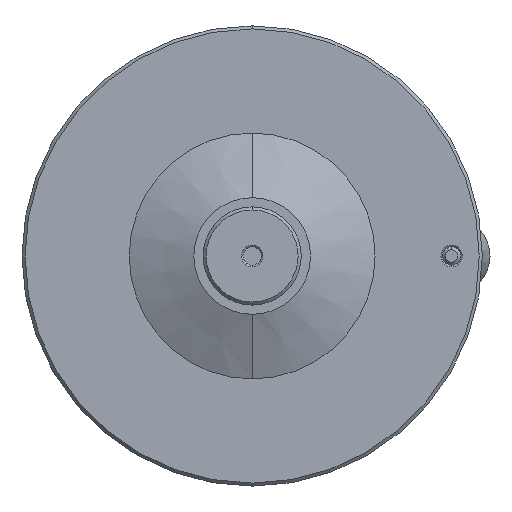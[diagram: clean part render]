
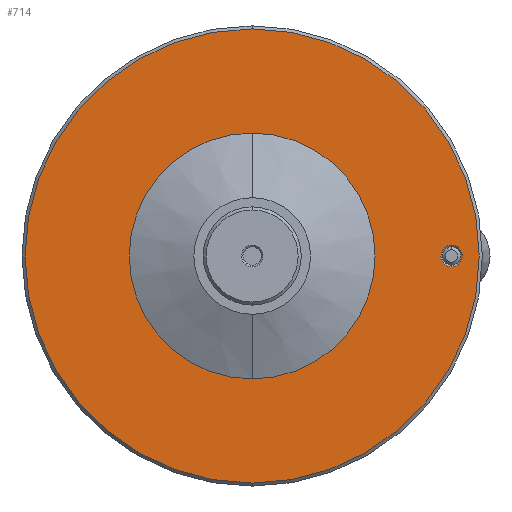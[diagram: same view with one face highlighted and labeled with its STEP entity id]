
A CAD part, front view. The second image highlights one B-rep face of the part: STEP entity #714.
In plain terms, the highlighted planar face has unit normal (0, -1, 0).
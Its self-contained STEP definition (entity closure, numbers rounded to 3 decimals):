
#70 = EDGE_CURVE ( 'NONE', #1377, #421, #1651, .T. ) ;
#91 = CARTESIAN_POINT ( 'NONE',  ( 0., -8., 0. ) ) ;
#115 = CIRCLE ( 'NONE', #228, 40.049 ) ;
#117 = AXIS2_PLACEMENT_3D ( 'NONE', #1178, #903, #175 ) ;
#122 = ORIENTED_EDGE ( 'NONE', *, *, #698, .T. ) ;
#149 = DIRECTION ( 'NONE',  ( 0., 0., -1. ) ) ;
#175 = DIRECTION ( 'NONE',  ( 0., 0., -1. ) ) ;
#180 = FACE_BOUND ( 'NONE', #1406, .T. ) ;
#203 = FACE_BOUND ( 'NONE', #1808, .T. ) ;
#228 = AXIS2_PLACEMENT_3D ( 'NONE', #91, #1099, #254 ) ;
#254 = DIRECTION ( 'NONE',  ( 0., 0., 1. ) ) ;
#286 = CIRCLE ( 'NONE', #117, 3.5 ) ;
#295 = AXIS2_PLACEMENT_3D ( 'NONE', #1162, #1266, #149 ) ;
#328 = DIRECTION ( 'NONE',  ( 0., 0., -1. ) ) ;
#421 = VERTEX_POINT ( 'NONE', #825 ) ;
#431 = PLANE ( 'NONE',  #1234 ) ;
#441 = VERTEX_POINT ( 'NONE', #1366 ) ;
#483 = CARTESIAN_POINT ( 'NONE',  ( 0., -8., 40.049 ) ) ;
#500 = DIRECTION ( 'NONE',  ( 0., 1., 0. ) ) ;
#698 = EDGE_CURVE ( 'NONE', #421, #1377, #1857, .T. ) ;
#714 = ADVANCED_FACE ( 'NONE', ( #203, #1293, #180 ), #431, .T. ) ;
#778 = CARTESIAN_POINT ( 'NONE',  ( 0., -8., 0. ) ) ;
#825 = CARTESIAN_POINT ( 'NONE',  ( 0., -8., -74. ) ) ;
#830 = AXIS2_PLACEMENT_3D ( 'NONE', #1321, #1456, #328 ) ;
#844 = ORIENTED_EDGE ( 'NONE', *, *, #1661, .T. ) ;
#848 = DIRECTION ( 'NONE',  ( 0., 0., -1. ) ) ;
#880 = DIRECTION ( 'NONE',  ( 0., 0., -1. ) ) ;
#903 = DIRECTION ( 'NONE',  ( 0., 1., 0. ) ) ;
#1028 = VERTEX_POINT ( 'NONE', #1679 ) ;
#1086 = EDGE_CURVE ( 'NONE', #1595, #441, #115, .T. ) ;
#1099 = DIRECTION ( 'NONE',  ( 0., 1., 0. ) ) ;
#1127 = EDGE_LOOP ( 'NONE', ( #1247, #122 ) ) ;
#1160 = CARTESIAN_POINT ( 'NONE',  ( 0., -8., 40.049 ) ) ;
#1162 = CARTESIAN_POINT ( 'NONE',  ( 0., -8., 0. ) ) ;
#1178 = CARTESIAN_POINT ( 'NONE',  ( 65., -8., 0. ) ) ;
#1234 = AXIS2_PLACEMENT_3D ( 'NONE', #1160, #1290, #880 ) ;
#1247 = ORIENTED_EDGE ( 'NONE', *, *, #70, .T. ) ;
#1252 = EDGE_CURVE ( 'NONE', #1028, #1761, #1716, .T. ) ;
#1257 = DIRECTION ( 'NONE',  ( 0., 1., 0. ) ) ;
#1266 = DIRECTION ( 'NONE',  ( 0., -1., 0. ) ) ;
#1274 = CARTESIAN_POINT ( 'NONE',  ( 65., -8., 0. ) ) ;
#1290 = DIRECTION ( 'NONE',  ( 0., -1., 0. ) ) ;
#1293 = FACE_OUTER_BOUND ( 'NONE', #1127, .T. ) ;
#1321 = CARTESIAN_POINT ( 'NONE',  ( 0., -8., 0. ) ) ;
#1360 = ORIENTED_EDGE ( 'NONE', *, *, #1252, .T. ) ;
#1366 = CARTESIAN_POINT ( 'NONE',  ( 0., -8., -40.049 ) ) ;
#1368 = DIRECTION ( 'NONE',  ( 0., 0., 1. ) ) ;
#1377 = VERTEX_POINT ( 'NONE', #1469 ) ;
#1406 = EDGE_LOOP ( 'NONE', ( #1719, #844 ) ) ;
#1456 = DIRECTION ( 'NONE',  ( 0., -1., 0. ) ) ;
#1469 = CARTESIAN_POINT ( 'NONE',  ( 0., -8., 74. ) ) ;
#1470 = AXIS2_PLACEMENT_3D ( 'NONE', #1274, #1257, #848 ) ;
#1494 = ORIENTED_EDGE ( 'NONE', *, *, #1559, .T. ) ;
#1544 = CIRCLE ( 'NONE', #1727, 40.049 ) ;
#1559 = EDGE_CURVE ( 'NONE', #1761, #1028, #286, .T. ) ;
#1595 = VERTEX_POINT ( 'NONE', #483 ) ;
#1651 = CIRCLE ( 'NONE', #830, 74. ) ;
#1661 = EDGE_CURVE ( 'NONE', #441, #1595, #1544, .T. ) ;
#1679 = CARTESIAN_POINT ( 'NONE',  ( 65., -8., 3.5 ) ) ;
#1716 = CIRCLE ( 'NONE', #1470, 3.5 ) ;
#1719 = ORIENTED_EDGE ( 'NONE', *, *, #1086, .T. ) ;
#1727 = AXIS2_PLACEMENT_3D ( 'NONE', #778, #500, #1368 ) ;
#1761 = VERTEX_POINT ( 'NONE', #1820 ) ;
#1808 = EDGE_LOOP ( 'NONE', ( #1494, #1360 ) ) ;
#1820 = CARTESIAN_POINT ( 'NONE',  ( 65., -8., -3.5 ) ) ;
#1857 = CIRCLE ( 'NONE', #295, 74. ) ;
